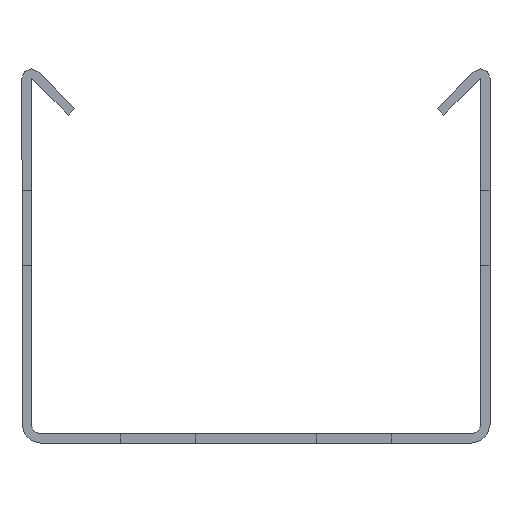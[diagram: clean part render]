
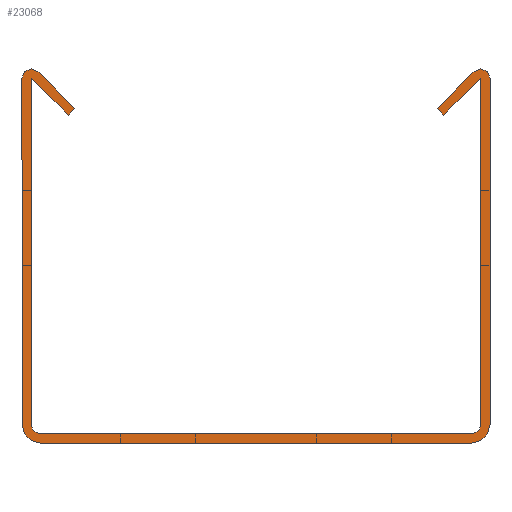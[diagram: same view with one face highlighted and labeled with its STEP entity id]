
A CAD part, front view. The second image highlights one B-rep face of the part: STEP entity #23068.
In plain terms, the highlighted planar face has unit normal (0, -1, 0).
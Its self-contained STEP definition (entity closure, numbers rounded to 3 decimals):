
#1108=PLANE('',#25274);
#2208=FACE_OUTER_BOUND('',#3848,.T.);
#3848=EDGE_LOOP('',(#21405,#21406,#21407,#21408,#21409,#21410,#21411,#21412,
#21413,#21414,#21415,#21416,#21417,#21418,#21419,#21420,#21421,#21422));
#6009=LINE('',#38347,#8211);
#6013=LINE('',#38355,#8215);
#6016=LINE('',#38361,#8218);
#6019=LINE('',#38367,#8221);
#6023=LINE('',#38379,#8225);
#6027=LINE('',#38391,#8229);
#6031=LINE('',#38403,#8233);
#6035=LINE('',#38415,#8237);
#6038=LINE('',#38421,#8240);
#6041=LINE('',#38427,#8243);
#6044=LINE('',#38433,#8246);
#6048=LINE('',#38445,#8250);
#8211=VECTOR('',#31759,10.);
#8215=VECTOR('',#31765,10.);
#8218=VECTOR('',#31770,10.);
#8221=VECTOR('',#31775,10.);
#8225=VECTOR('',#31787,10.);
#8229=VECTOR('',#31799,10.);
#8233=VECTOR('',#31811,10.);
#8237=VECTOR('',#31823,10.);
#8240=VECTOR('',#31828,10.);
#8243=VECTOR('',#31833,10.);
#8246=VECTOR('',#31838,10.);
#8250=VECTOR('',#31850,10.);
#9333=CIRCLE('',#25248,1.);
#9335=CIRCLE('',#25252,2.);
#9337=CIRCLE('',#25256,2.);
#9339=CIRCLE('',#25260,1.);
#9341=CIRCLE('',#25267,1.);
#9343=CIRCLE('',#25271,1.);
#11505=VERTEX_POINT('',#38345);
#11506=VERTEX_POINT('',#38346);
#11509=VERTEX_POINT('',#38354);
#11511=VERTEX_POINT('',#38360);
#11513=VERTEX_POINT('',#38366);
#11515=VERTEX_POINT('',#38372);
#11517=VERTEX_POINT('',#38378);
#11519=VERTEX_POINT('',#38384);
#11521=VERTEX_POINT('',#38390);
#11523=VERTEX_POINT('',#38396);
#11525=VERTEX_POINT('',#38402);
#11527=VERTEX_POINT('',#38408);
#11529=VERTEX_POINT('',#38414);
#11531=VERTEX_POINT('',#38420);
#11533=VERTEX_POINT('',#38426);
#11535=VERTEX_POINT('',#38432);
#11537=VERTEX_POINT('',#38438);
#11539=VERTEX_POINT('',#38444);
#14781=EDGE_CURVE('',#11505,#11506,#6009,.T.);
#14785=EDGE_CURVE('',#11506,#11509,#6013,.T.);
#14788=EDGE_CURVE('',#11509,#11511,#6016,.T.);
#14791=EDGE_CURVE('',#11513,#11511,#6019,.T.);
#14794=EDGE_CURVE('',#11515,#11513,#9333,.T.);
#14797=EDGE_CURVE('',#11517,#11515,#6023,.T.);
#14800=EDGE_CURVE('',#11519,#11517,#9335,.T.);
#14803=EDGE_CURVE('',#11519,#11521,#6027,.T.);
#14806=EDGE_CURVE('',#11523,#11521,#9337,.T.);
#14809=EDGE_CURVE('',#11523,#11525,#6031,.T.);
#14812=EDGE_CURVE('',#11527,#11525,#9339,.T.);
#14815=EDGE_CURVE('',#11527,#11529,#6035,.T.);
#14818=EDGE_CURVE('',#11531,#11529,#6038,.T.);
#14821=EDGE_CURVE('',#11533,#11531,#6041,.T.);
#14824=EDGE_CURVE('',#11535,#11533,#6044,.T.);
#14827=EDGE_CURVE('',#11535,#11537,#9341,.T.);
#14830=EDGE_CURVE('',#11539,#11537,#6048,.T.);
#14833=EDGE_CURVE('',#11539,#11505,#9343,.T.);
#21405=ORIENTED_EDGE('',*,*,#14833,.T.);
#21406=ORIENTED_EDGE('',*,*,#14781,.T.);
#21407=ORIENTED_EDGE('',*,*,#14785,.T.);
#21408=ORIENTED_EDGE('',*,*,#14788,.T.);
#21409=ORIENTED_EDGE('',*,*,#14791,.F.);
#21410=ORIENTED_EDGE('',*,*,#14794,.F.);
#21411=ORIENTED_EDGE('',*,*,#14797,.F.);
#21412=ORIENTED_EDGE('',*,*,#14800,.F.);
#21413=ORIENTED_EDGE('',*,*,#14803,.T.);
#21414=ORIENTED_EDGE('',*,*,#14806,.F.);
#21415=ORIENTED_EDGE('',*,*,#14809,.T.);
#21416=ORIENTED_EDGE('',*,*,#14812,.F.);
#21417=ORIENTED_EDGE('',*,*,#14815,.T.);
#21418=ORIENTED_EDGE('',*,*,#14818,.F.);
#21419=ORIENTED_EDGE('',*,*,#14821,.F.);
#21420=ORIENTED_EDGE('',*,*,#14824,.F.);
#21421=ORIENTED_EDGE('',*,*,#14827,.T.);
#21422=ORIENTED_EDGE('',*,*,#14830,.F.);
#23068=ADVANCED_FACE('',(#2208),#1108,.F.);
#25248=AXIS2_PLACEMENT_3D('',#38373,#31780,#31781);
#25252=AXIS2_PLACEMENT_3D('',#38385,#31792,#31793);
#25256=AXIS2_PLACEMENT_3D('',#38397,#31804,#31805);
#25260=AXIS2_PLACEMENT_3D('',#38409,#31816,#31817);
#25267=AXIS2_PLACEMENT_3D('',#38439,#31843,#31844);
#25271=AXIS2_PLACEMENT_3D('',#38450,#31855,#31856);
#25274=AXIS2_PLACEMENT_3D('',#38453,#31861,#31862);
#31759=DIRECTION('',(0.,0.,1.));
#31765=DIRECTION('',(0.707,0.,-0.707));
#31770=DIRECTION('',(0.707,0.,0.707));
#31775=DIRECTION('',(0.707,0.,-0.707));
#31780=DIRECTION('center_axis',(0.,1.,0.));
#31781=DIRECTION('ref_axis',(-1.,0.,0.));
#31787=DIRECTION('',(0.,0.,1.));
#31792=DIRECTION('center_axis',(0.,1.,0.));
#31793=DIRECTION('ref_axis',(0.,0.,-1.));
#31799=DIRECTION('',(1.,0.,0.));
#31804=DIRECTION('center_axis',(0.,1.,0.));
#31805=DIRECTION('ref_axis',(1.,0.,0.));
#31811=DIRECTION('',(0.,0.,1.));
#31816=DIRECTION('center_axis',(0.,1.,0.));
#31817=DIRECTION('ref_axis',(-0.707,0.,0.707));
#31823=DIRECTION('',(-0.707,0.,-0.707));
#31828=DIRECTION('',(-0.707,0.,0.707));
#31833=DIRECTION('',(-0.707,0.,-0.707));
#31838=DIRECTION('',(0.,0.,1.));
#31843=DIRECTION('center_axis',(0.,1.,0.));
#31844=DIRECTION('ref_axis',(1.,0.,0.));
#31850=DIRECTION('',(1.,0.,0.));
#31855=DIRECTION('center_axis',(0.,1.,0.));
#31856=DIRECTION('ref_axis',(0.,0.,-1.));
#31861=DIRECTION('center_axis',(0.,1.,0.));
#31862=DIRECTION('ref_axis',(1.,0.,0.));
#38345=CARTESIAN_POINT('',(1.,0.,2.));
#38346=CARTESIAN_POINT('',(1.,0.,39.));
#38347=CARTESIAN_POINT('',(1.,0.,2.));
#38354=CARTESIAN_POINT('',(4.95,0.,35.05));
#38355=CARTESIAN_POINT('',(1.,0.,39.));
#38360=CARTESIAN_POINT('',(5.657,0.,35.757));
#38361=CARTESIAN_POINT('',(4.95,0.,35.05));
#38366=CARTESIAN_POINT('',(1.707,0.,39.707));
#38367=CARTESIAN_POINT('',(1.576,0.,39.838));
#38372=CARTESIAN_POINT('',(0.,0.,39.));
#38373=CARTESIAN_POINT('Origin',(1.,0.,39.));
#38378=CARTESIAN_POINT('',(0.,0.,2.));
#38379=CARTESIAN_POINT('',(0.,0.,2.));
#38384=CARTESIAN_POINT('',(2.,0.,0.));
#38385=CARTESIAN_POINT('Origin',(2.,0.,2.));
#38390=CARTESIAN_POINT('',(48.,0.,0.));
#38391=CARTESIAN_POINT('',(0.,0.,0.));
#38396=CARTESIAN_POINT('',(50.,0.,2.));
#38397=CARTESIAN_POINT('Origin',(48.,0.,2.));
#38402=CARTESIAN_POINT('',(50.,0.,39.));
#38403=CARTESIAN_POINT('',(50.,0.,2.));
#38408=CARTESIAN_POINT('',(48.293,0.,39.707));
#38409=CARTESIAN_POINT('Origin',(49.,0.,39.));
#38414=CARTESIAN_POINT('',(44.343,0.,35.757));
#38415=CARTESIAN_POINT('',(48.424,0.,39.838));
#38420=CARTESIAN_POINT('',(45.05,0.,35.05));
#38421=CARTESIAN_POINT('',(45.05,0.,35.05));
#38426=CARTESIAN_POINT('',(49.,0.,39.));
#38427=CARTESIAN_POINT('',(49.,0.,39.));
#38432=CARTESIAN_POINT('',(49.,0.,2.));
#38433=CARTESIAN_POINT('',(49.,0.,2.));
#38438=CARTESIAN_POINT('',(48.,0.,1.));
#38439=CARTESIAN_POINT('Origin',(48.,0.,2.));
#38444=CARTESIAN_POINT('',(2.,0.,1.));
#38445=CARTESIAN_POINT('',(2.,0.,1.));
#38450=CARTESIAN_POINT('Origin',(2.,0.,2.));
#38453=CARTESIAN_POINT('Origin',(25.,0.,20.));
